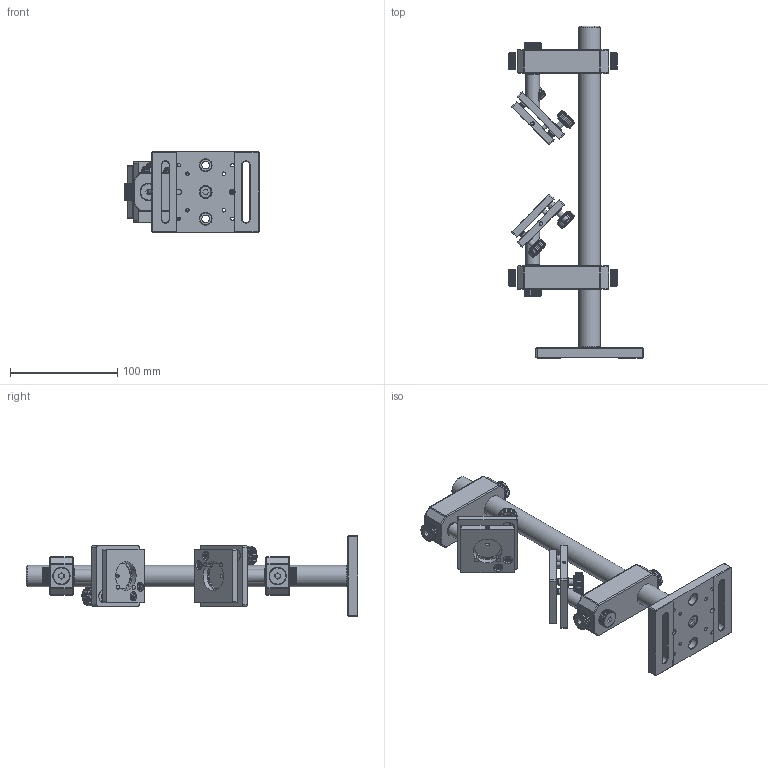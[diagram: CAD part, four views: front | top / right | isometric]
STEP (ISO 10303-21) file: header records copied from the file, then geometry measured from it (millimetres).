
FILE_DESCRIPTION (( 'STEP AP203' ), '1' );
FILE_NAME ('M-BSD-1B.step', '2017-01-11T09:35:03', ( '¦K¬P' ), ( '' ), 'SwSTEP 2.0', 'SolidWorks 2012', '' );
FILE_SCHEMA (( 'CONFIG_CONTROL_DESIGN' ));
Length unit declared in the file: millimetre
Products named in the file (1): M-BSD-1B
Bounding box: 125.35 x 309.5 x 75 mm (x, y, z)
Surface area: 99825.3 mm2 (no closed solid volume)
Topology: 0 solids, 80 shells, 1428 faces, 4485 edges, 3024 vertices
Faces by surface type: plane 599, cylinder 532, torus 125, bspline 92, cone 44, sphere 36
Full cylindrical faces by diameter (mm): 0.77 x2, 1 x2, 3 x6, 3.3 x14, 3.454 x2, 3.5 x4, 4 x8, 5 x6, 5.105 x1, 6 x4, 6.6 x2, 7 x2, 8 x2, 8.5 x8, 10 x5, 11 x3, 11.7 x1, 12 x4, 12.7 x2, 20 x1, 24 x2
Entity records: 51752 total; most frequent: CARTESIAN_POINT 14111, DIRECTION 7967, ORIENTED_EDGE 6789, EDGE_CURVE 4314, AXIS2_PLACEMENT_3D 3024, VERTEX_POINT 2986, LINE 1919, VECTOR 1919
